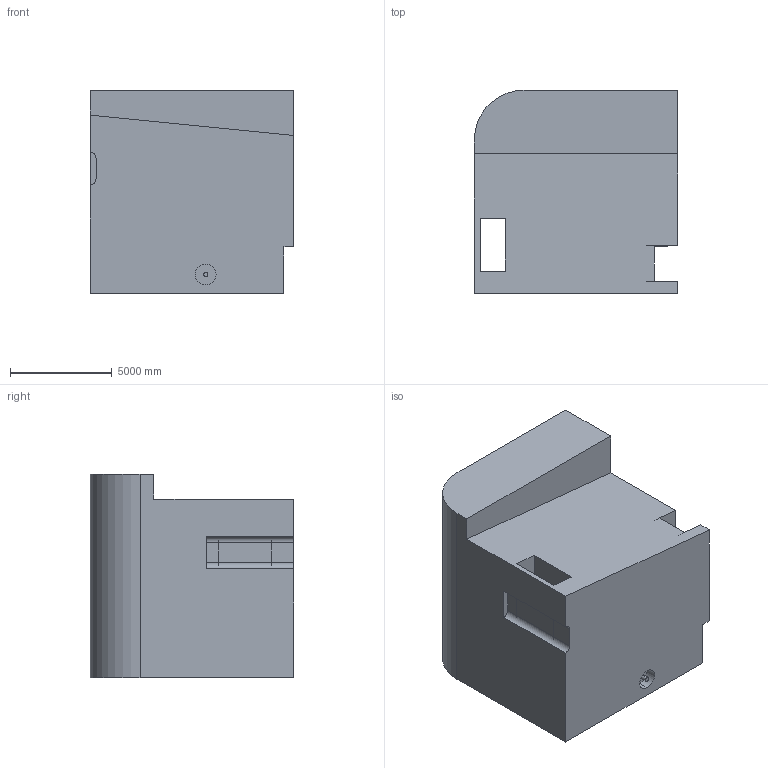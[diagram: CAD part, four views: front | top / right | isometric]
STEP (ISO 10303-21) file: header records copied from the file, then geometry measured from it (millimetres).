
FILE_DESCRIPTION (( 'STEP AP203' ), '1' );
FILE_NAME ('163.STEP', '2022-09-06T13:29:00', ( 'user' ), ( '' ), 'SwSTEP 2.0', 'SolidWorks 2021', '' );
FILE_SCHEMA (( 'CONFIG_CONTROL_DESIGN' ));
Length unit declared in the file: centimetre
Products named in the file (1): 163
Bounding box: 10000 x 10000 x 10000 mm (x, y, z)
Volume: 796631037889 mm3; surface area: 654466690.5 mm2
Topology: 1 solids, 1 shells, 32 faces, 84 edges, 56 vertices
Faces by surface type: plane 25, cylinder 7
Entity records: 1063 total; most frequent: CARTESIAN_POINT 173, ORIENTED_EDGE 168, DIRECTION 164, EDGE_CURVE 84, VECTOR 70, LINE 70, VERTEX_POINT 56, AXIS2_PLACEMENT_3D 47
